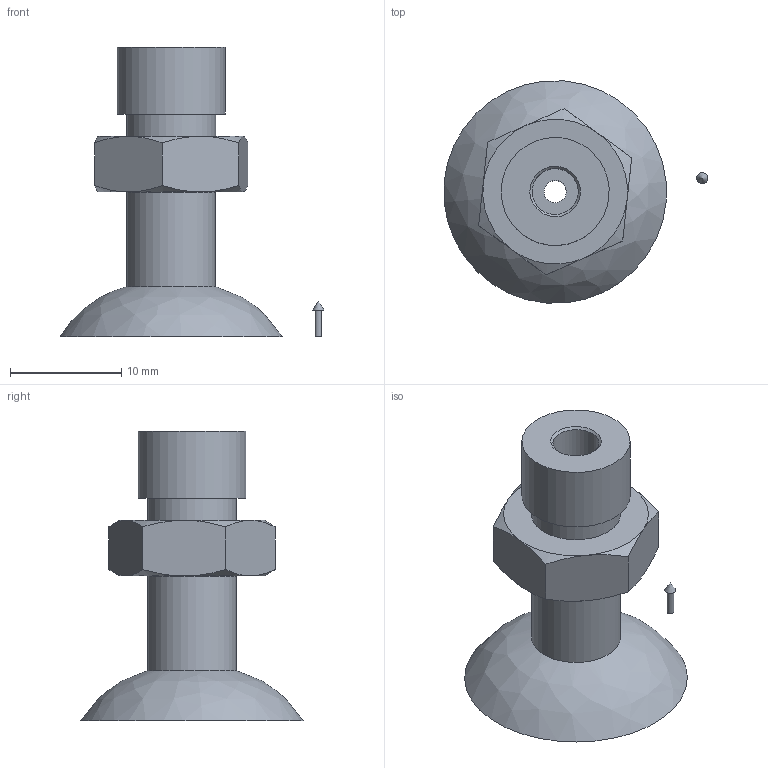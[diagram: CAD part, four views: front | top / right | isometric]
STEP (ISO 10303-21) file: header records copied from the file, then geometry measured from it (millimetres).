
FILE_DESCRIPTION(('STEP AP214'),'1');
FILE_NAME('KIT.08.03.D20.9.stp','2019-05-27T09:54:33',(' '),(' '),'Spatial InterOp 3D',' ',' ');
FILE_SCHEMA(('AUTOMOTIVE_DESIGN { 1 0 10303 214 1 1 1 1 }'));
Length unit declared in the file: millimetre
Products named in the file (5): KIT.08.03.D20.9; CA.08.09.009; CA.08.03.006
Assembly tree (4 placements, depth 3):
  KIT.08.03.D20.9
    CA.08.09.009
    (unnamed)
      CA.08.03.006
      CA.08.03.006
Bounding box: 23.68 x 19.93 x 26 mm (x, y, z)
Volume: 1741 mm3; surface area: 2176.4 mm2
Topology: 3 solids, 3 shells, 46 faces, 87 edges, 54 vertices
Faces by surface type: plane 19, cone 17, cylinder 8, bspline 2
Full cylindrical faces by diameter (mm): 0.6 x1, 2 x1, 4 x1, 4.134 x1, 4.5 x1, 8 x2, 9.7 x1
Entity records: 1630 total; most frequent: CARTESIAN_POINT 321, DIRECTION 182, ORIENTED_EDGE 136, AXIS2_PLACEMENT_3D 88, EDGE_LOOP 72, EDGE_CURVE 68, FACE_OUTER_BOUND 56, VERTEX_POINT 51
